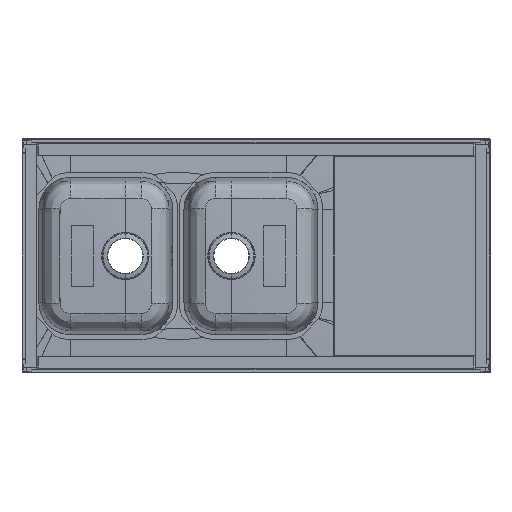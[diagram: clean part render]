
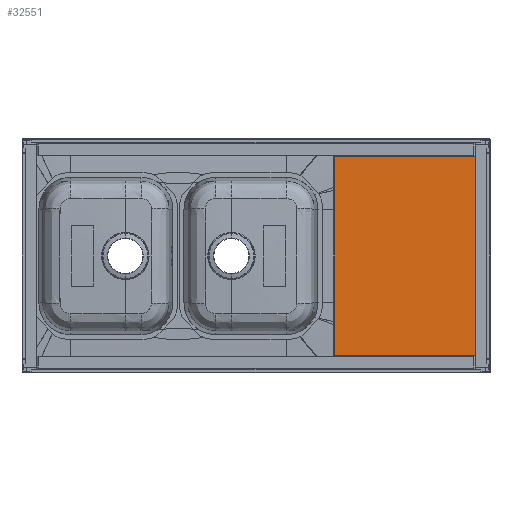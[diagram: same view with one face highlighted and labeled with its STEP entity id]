
A CAD part, front view. The second image highlights one B-rep face of the part: STEP entity #32551.
In plain terms, the highlighted planar face has unit normal (0.017, -1, 0) as drawn and (0, -1, 0) by its records, which use the part's own axes.
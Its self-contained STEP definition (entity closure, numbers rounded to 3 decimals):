
#32472=DIRECTION('',(0.,0.,1.));
#32473=VECTOR('',#32472,510.);
#32474=CARTESIAN_POINT('',(-195.,0.,-255.));
#32475=LINE('',#32474,#32473);
#32476=DIRECTION('',(1.,0.,0.));
#32477=VECTOR('',#32476,390.);
#32478=CARTESIAN_POINT('',(-195.,0.,255.));
#32479=LINE('',#32478,#32477);
#32480=DIRECTION('',(0.,0.,-1.));
#32481=VECTOR('',#32480,510.);
#32482=CARTESIAN_POINT('',(195.,0.,255.));
#32483=LINE('',#32482,#32481);
#32484=DIRECTION('',(-1.,0.,0.));
#32485=VECTOR('',#32484,390.);
#32486=CARTESIAN_POINT('',(195.,0.,-255.));
#32487=LINE('',#32486,#32485);
#32520=CARTESIAN_POINT('',(-195.,0.,-255.));
#32521=CARTESIAN_POINT('',(-195.,0.,255.));
#32522=VERTEX_POINT('',#32520);
#32523=VERTEX_POINT('',#32521);
#32524=CARTESIAN_POINT('',(195.,0.,255.));
#32525=VERTEX_POINT('',#32524);
#32526=CARTESIAN_POINT('',(195.,0.,-255.));
#32527=VERTEX_POINT('',#32526);
#32536=CARTESIAN_POINT('',(0.,0.,0.));
#32537=DIRECTION('',(0.,1.,0.));
#32538=DIRECTION('',(1.,0.,0.));
#32539=AXIS2_PLACEMENT_3D('',#32536,#32537,#32538);
#32540=PLANE('',#32539);
#32542=ORIENTED_EDGE('',*,*,#32541,.T.);
#32544=ORIENTED_EDGE('',*,*,#32543,.T.);
#32546=ORIENTED_EDGE('',*,*,#32545,.T.);
#32548=ORIENTED_EDGE('',*,*,#32547,.T.);
#32549=EDGE_LOOP('',(#32542,#32544,#32546,#32548));
#32550=FACE_OUTER_BOUND('',#32549,.F.);
#32551=ADVANCED_FACE('',(#32550),#32540,.F.);
#32541=EDGE_CURVE('',#32522,#32523,#32475,.T.);
#32543=EDGE_CURVE('',#32523,#32525,#32479,.T.);
#32545=EDGE_CURVE('',#32525,#32527,#32483,.T.);
#32547=EDGE_CURVE('',#32527,#32522,#32487,.T.);
